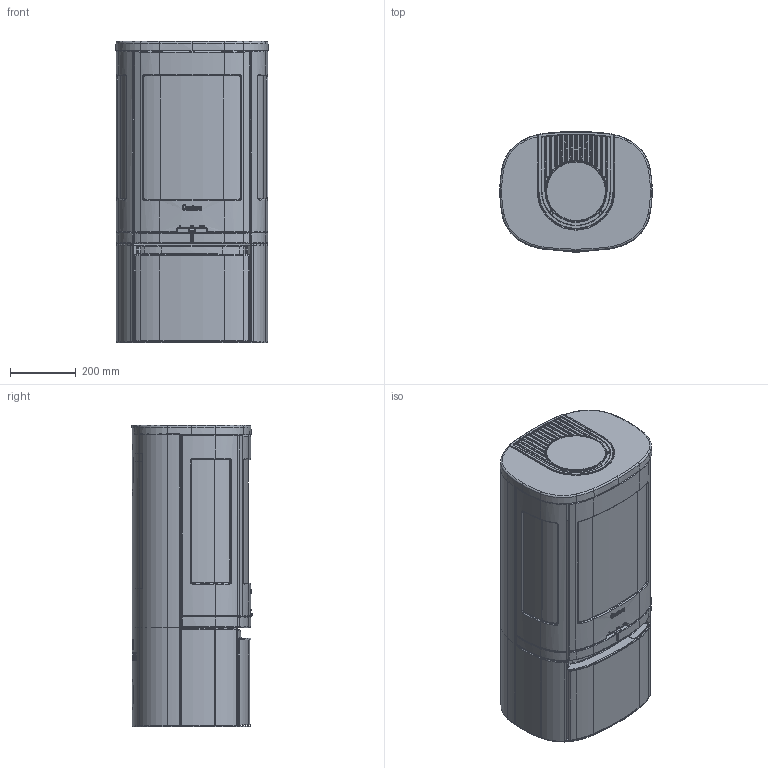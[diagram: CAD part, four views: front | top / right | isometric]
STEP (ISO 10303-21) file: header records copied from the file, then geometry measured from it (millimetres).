
FILE_DESCRIPTION( ( 'Unknown' ), '1' );
FILE_NAME( 'C:/temp/test 710720870/C850 Assembly.stp', 'Unknown', ( 'Unknown' ), ( 'Unknown' ), 'PSStep 17.0.49', 'Unknown', ' ' );
FILE_SCHEMA( ( 'AUTOMOTIVE_DESIGN { 1 0 10303 214 1 1 1 1 }' ) );
Length unit declared in the file: millimetre
Products named in the file (20): Assem1; Lid; lower door c800; fot c800; door c800; top cast iron c800; rear c800; glass c800; side glass c800; upper sides c800; sides under c800; bottom cast iron c800; lattice c800; grate c800; vermiculite c800; insert c800; fire c800
Assembly tree (19 placements, depth 2):
  Assem1
    Lid
    lower door c800
    fot c800
    door c800
    top cast iron c800
    rear c800
    glass c800
    side glass c800
    side glass c800
    upper sides c800
    upper sides c800
    sides under c800
    sides under c800
    bottom cast iron c800
    lattice c800
    grate c800
    vermiculite c800
    insert c800
    fire c800
Bounding box: 463.9 x 366.47 x 916 mm (x, y, z)
Volume: 150001150.9 mm3; surface area: 6663750.5 mm2
Topology: 19 solids, 19 shells, 2294 faces, 5689 edges, 3452 vertices
Faces by surface type: bspline 701, cylinder 561, plane 535, torus 169, extrusion 161, cone 70, sphere 55, revolution 42
Full cylindrical faces by diameter (mm): 4.85 x10, 178 x1
Entity records: 150426 total; most frequent: CARTESIAN_POINT 82434, ORIENTED_EDGE 11280, DIRECTION 7634, EDGE_CURVE 5640, VERTEX_POINT 3436, AXIS2_PLACEMENT_3D 2950, STYLED_ITEM 2734, PRESENTATION_STYLE_ASSIGNMENT 2734
